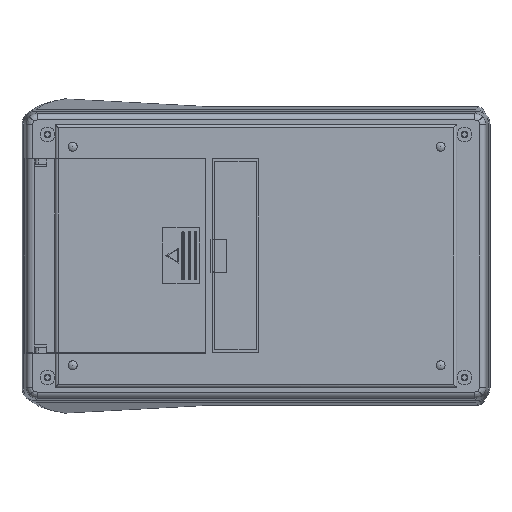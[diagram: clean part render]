
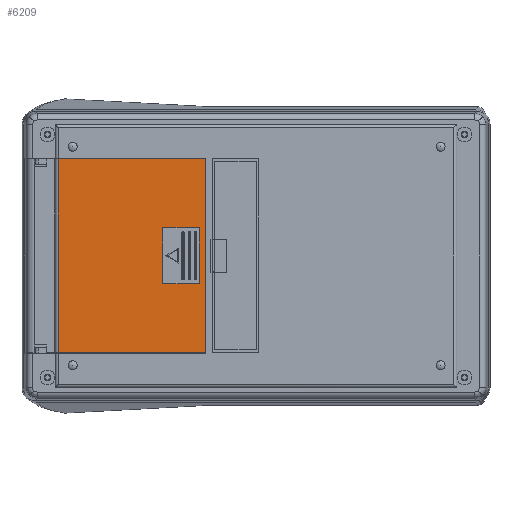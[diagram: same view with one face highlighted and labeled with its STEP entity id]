
A CAD part, front view. The second image highlights one B-rep face of the part: STEP entity #6209.
In plain terms, the highlighted planar face has unit normal (0, -1, 0).
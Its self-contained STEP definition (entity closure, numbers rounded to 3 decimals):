
#311 = CARTESIAN_POINT ( 'NONE',  ( 38.7, 0., -8.75 ) ) ;
#404 = CARTESIAN_POINT ( 'NONE',  ( 25.2, 0., 30.4 ) ) ;
#481 = VERTEX_POINT ( 'NONE', #24820 ) ;
#679 = ORIENTED_EDGE ( 'NONE', *, *, #1091, .F. ) ;
#736 = DIRECTION ( 'NONE',  ( -1., 0., 0. ) ) ;
#797 = EDGE_CURVE ( 'NONE', #18591, #481, #17141, .T. ) ;
#1091 = EDGE_CURVE ( 'NONE', #481, #10808, #26362, .T. ) ;
#1103 = ORIENTED_EDGE ( 'NONE', *, *, #17433, .F. ) ;
#1121 = EDGE_CURVE ( 'NONE', #21340, #9797, #3982, .T. ) ;
#1393 = VECTOR ( 'NONE', #20851, 1000. ) ;
#2206 = CARTESIAN_POINT ( 'NONE',  ( 27.2, 0., 8.75 ) ) ;
#2292 = CARTESIAN_POINT ( 'NONE',  ( 25.2, 0., -30.4 ) ) ;
#2662 = EDGE_LOOP ( 'NONE', ( #18487, #1103, #11117, #679 ) ) ;
#3304 = CARTESIAN_POINT ( 'NONE',  ( 71.5, 0., 30.4 ) ) ;
#3731 = ORIENTED_EDGE ( 'NONE', *, *, #7276, .T. ) ;
#3866 = CARTESIAN_POINT ( 'NONE',  ( 25.2, 0., 30.4 ) ) ;
#3982 = LINE ( 'NONE', #2292, #14262 ) ;
#4316 = DIRECTION ( 'NONE',  ( 1., 0., 0. ) ) ;
#4508 = CARTESIAN_POINT ( 'NONE',  ( 38.7, 0., -8.75 ) ) ;
#4532 = CARTESIAN_POINT ( 'NONE',  ( 71.5, 0., -30.4 ) ) ;
#4629 = LINE ( 'NONE', #7971, #10077 ) ;
#5329 = DIRECTION ( 'NONE',  ( 0., 0., -1. ) ) ;
#5741 = ORIENTED_EDGE ( 'NONE', *, *, #23175, .F. ) ;
#6206 = EDGE_CURVE ( 'NONE', #9238, #20244, #16789, .T. ) ;
#6209 = ADVANCED_FACE ( 'NONE', ( #6522, #22840 ), #15351, .F. ) ;
#6279 = DIRECTION ( 'NONE',  ( 0., 0., -1. ) ) ;
#6522 = FACE_BOUND ( 'NONE', #2662, .T. ) ;
#6805 = ORIENTED_EDGE ( 'NONE', *, *, #1121, .T. ) ;
#6872 = EDGE_CURVE ( 'NONE', #10808, #15344, #23122, .T. ) ;
#7178 = CARTESIAN_POINT ( 'NONE',  ( 25.2, 0., 30.4 ) ) ;
#7276 = EDGE_CURVE ( 'NONE', #9238, #21340, #19589, .T. ) ;
#7971 = CARTESIAN_POINT ( 'NONE',  ( 38.7, 0., 8.75 ) ) ;
#7990 = CARTESIAN_POINT ( 'NONE',  ( 71.5, 0., 30.4 ) ) ;
#8989 = CARTESIAN_POINT ( 'NONE',  ( 27.2, 0., -8.75 ) ) ;
#9237 = CARTESIAN_POINT ( 'NONE',  ( 25.2, 0., 30.4 ) ) ;
#9238 = VERTEX_POINT ( 'NONE', #404 ) ;
#9797 = VERTEX_POINT ( 'NONE', #4532 ) ;
#9845 = VECTOR ( 'NONE', #5329, 1000. ) ;
#10077 = VECTOR ( 'NONE', #20223, 1000. ) ;
#10808 = VERTEX_POINT ( 'NONE', #8989 ) ;
#11117 = ORIENTED_EDGE ( 'NONE', *, *, #6872, .F. ) ;
#11994 = VECTOR ( 'NONE', #23503, 1000. ) ;
#12173 = EDGE_LOOP ( 'NONE', ( #6805, #5741, #24091, #3731 ) ) ;
#12365 = CARTESIAN_POINT ( 'NONE',  ( 25.2, 0., -30.4 ) ) ;
#13372 = DIRECTION ( 'NONE',  ( 0., 0., 1. ) ) ;
#13537 = VECTOR ( 'NONE', #18181, 1000. ) ;
#14262 = VECTOR ( 'NONE', #4316, 1000. ) ;
#15344 = VERTEX_POINT ( 'NONE', #311 ) ;
#15351 = PLANE ( 'NONE',  #19198 ) ;
#16789 = LINE ( 'NONE', #9237, #11994 ) ;
#17141 = LINE ( 'NONE', #25184, #22554 ) ;
#17433 = EDGE_CURVE ( 'NONE', #15344, #18591, #4629, .T. ) ;
#18181 = DIRECTION ( 'NONE',  ( 0., 0., -1. ) ) ;
#18487 = ORIENTED_EDGE ( 'NONE', *, *, #797, .F. ) ;
#18591 = VERTEX_POINT ( 'NONE', #20541 ) ;
#19198 = AXIS2_PLACEMENT_3D ( 'NONE', #7178, #25566, #13372 ) ;
#19589 = LINE ( 'NONE', #3866, #13537 ) ;
#20223 = DIRECTION ( 'NONE',  ( 0., 0., 1. ) ) ;
#20244 = VERTEX_POINT ( 'NONE', #7990 ) ;
#20295 = VECTOR ( 'NONE', #6279, 1000. ) ;
#20541 = CARTESIAN_POINT ( 'NONE',  ( 38.7, 0., 8.75 ) ) ;
#20851 = DIRECTION ( 'NONE',  ( 1., 0., 0. ) ) ;
#21340 = VERTEX_POINT ( 'NONE', #12365 ) ;
#22554 = VECTOR ( 'NONE', #736, 1000. ) ;
#22840 = FACE_OUTER_BOUND ( 'NONE', #12173, .T. ) ;
#23122 = LINE ( 'NONE', #4508, #1393 ) ;
#23175 = EDGE_CURVE ( 'NONE', #20244, #9797, #26133, .T. ) ;
#23503 = DIRECTION ( 'NONE',  ( 1., 0., 0. ) ) ;
#24091 = ORIENTED_EDGE ( 'NONE', *, *, #6206, .F. ) ;
#24820 = CARTESIAN_POINT ( 'NONE',  ( 27.2, 0., 8.75 ) ) ;
#25184 = CARTESIAN_POINT ( 'NONE',  ( 38.7, 0., 8.75 ) ) ;
#25566 = DIRECTION ( 'NONE',  ( 0., 1., 0. ) ) ;
#26133 = LINE ( 'NONE', #3304, #9845 ) ;
#26362 = LINE ( 'NONE', #2206, #20295 ) ;
